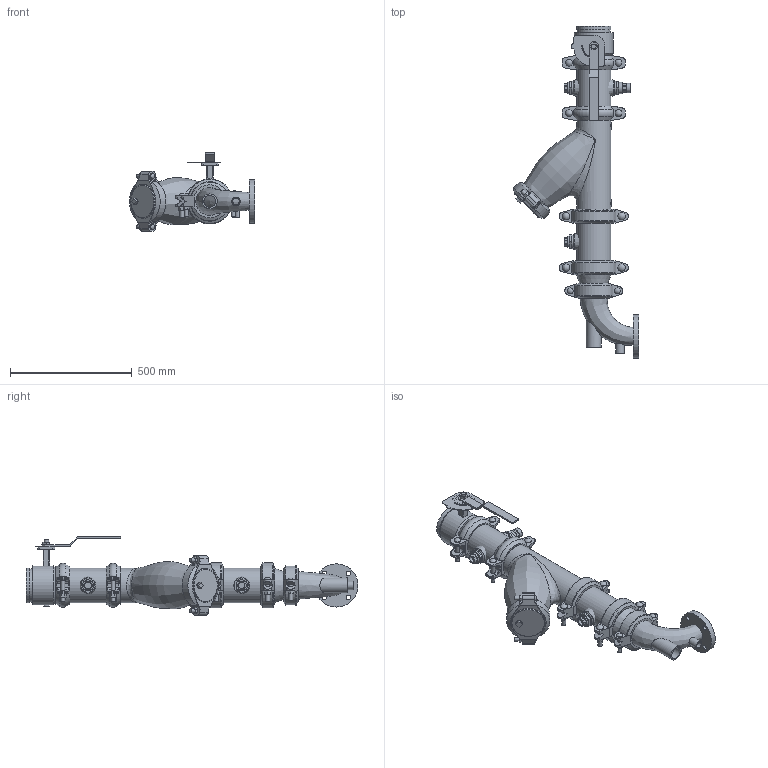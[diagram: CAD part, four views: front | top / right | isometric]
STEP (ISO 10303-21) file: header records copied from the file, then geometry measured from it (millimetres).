
FILE_DESCRIPTION(/* description */ ('VIC SVI PUMP DROP HORZ S/382 (OGSxFLG) (S/924-0.75)','CAx-IF Rec.Pracs.---Representation and Presentation of Product Manufacturing Information (PMI)---4.0---2014-10-13'),/* implementation_level */ '2;1');
FILE_NAME(/* name */ 'C:\Users\Vjadhav\AppData\Roaming\Autodesk\ApplicationPlugins\Victaulic.Temp\A562\Victaulic_IPS_Horizontal SVI_CL 150_Series 382 (OGSxFLG)_924 (0.75)_05.0x02.5 (125x65).stp',/* time_stamp */ '2022-02-28T19:58:03+05:00',/* author */ ('kkamble'),/* organization */ ('Victaulic'),/* preprocessor_version */ 'ST-DEVELOPER v17.2',/* originating_system */ 'Autodesk Inventor 2019',/* authorisation */ '');
FILE_SCHEMA (('AP242_MANAGED_MODEL_BASED_3D_ENGINEERING_MIM_LF { 1 0 10303 442 1 1 4 }'));
Length unit declared in the file: inch
Products named in the file (15): 382_924 (0.75)-05.0x02.5; PIPE-05.0; 107N-05.0; 732-05.0; 732-05.0_1; 07-05.0; 732-05.0_2; PIPE-05.2; 761-05.0; 924-04.0x0.75; 177N-04.0; 923-04.0x0.75; 050-05.0x04.0; 177N-05.0; R100F-04.0x02.5
Assembly tree (17 placements, depth 3):
  382_924 (0.75)-05.0x02.5
    PIPE-05.0
    107N-05.0  x2
    732-05.0
      732-05.0_1
      07-05.0
      732-05.0_2
    177N-05.0  x2
    PIPE-05.2
    761-05.0
    924-04.0x0.75
    923-04.0x0.75  x2
    177N-04.0
    050-05.0x04.0
    R100F-04.0x02.5
Bounding box: 514.35 x 1365.25 x 323.41 mm (x, y, z)
Volume: 10291589.2 mm3; surface area: 2305197.7 mm2
Topology: 16 solids, 19 shells, 1010 faces, 2616 edges, 1741 vertices
Faces by surface type: plane 539, cylinder 344, bspline 46, torus 36, cone 33, sphere 12
Full cylindrical faces by diameter (mm): 4.826 x10, 8.636 x4, 15.875 x14, 17.78 x4, 19.05 x6, 22.86 x1, 23.495 x2, 25.4 x3, 26.67 x4, 27.381 x4, 30.48 x4, 34.29 x1, 38.608 x1, 45.974 x6, 48.26 x1, 55.118 x1, 55.626 x3, 60.96 x1, 62.713 x1, 101.6 x1, 102.26 x2, 110.084 x2, 114.3 x5, 117.602 x1, 127.356 x1, 127.584 x1, 128.194 x4, 128.6 x4, 134.95 x1, 137.033 x11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
Entity records: 28819 total; most frequent: CARTESIAN_POINT 8853, DIRECTION 4048, ORIENTED_EDGE 3808, EDGE_CURVE 1904, AXIS2_PLACEMENT_3D 1532, VERTEX_POINT 1271, LINE 984, VECTOR 984
